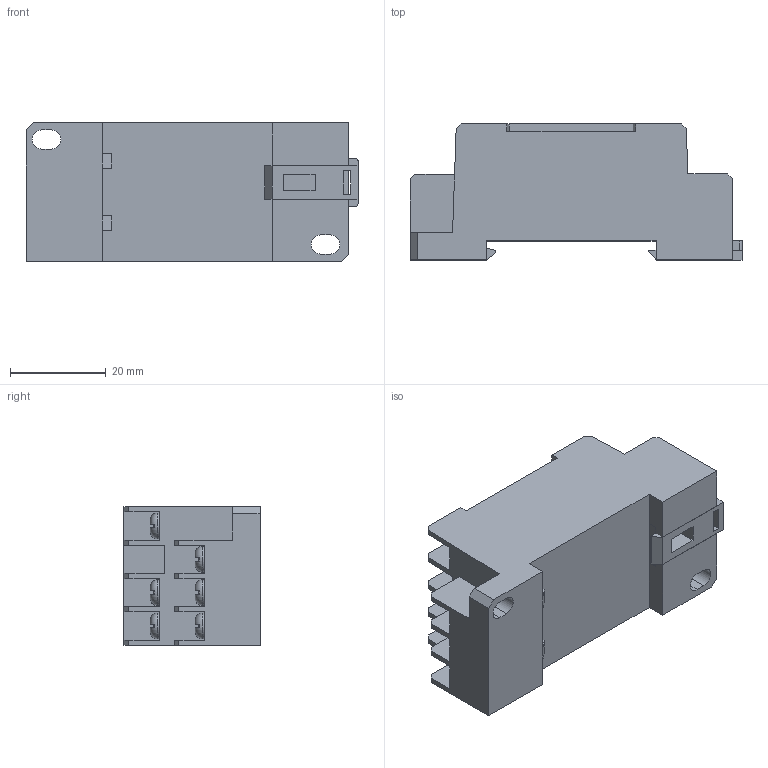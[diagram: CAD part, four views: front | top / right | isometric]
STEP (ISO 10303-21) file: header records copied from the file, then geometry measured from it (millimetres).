
FILE_DESCRIPTION (( 'STEP AP203' ), '1' );
FILE_NAME ('Ðîçåòêà äëÿ RI-53 ENGARD.STEP', '2021-12-09T11:08:28', ( '' ), ( '' ), 'SwSTEP 2.0', 'SolidWorks 2017', '' );
FILE_SCHEMA (( 'CONFIG_CONTROL_DESIGN' ));
Length unit declared in the file: millimetre
Products named in the file (1): Ðîçåòêà äëÿ RI-53 ENGARD
Bounding box: 69.5 x 28.5 x 29 mm (x, y, z)
Volume: 38339.3 mm3; surface area: 14650.3 mm2
Topology: 24 solids, 24 shells, 563 faces, 1481 edges, 978 vertices
Faces by surface type: plane 489, cylinder 52, torus 22
Entity records: 17674 total; most frequent: CARTESIAN_POINT 3793, ORIENTED_EDGE 2962, DIRECTION 2625, EDGE_CURVE 1481, LINE 1157, VECTOR 1157, VERTEX_POINT 978, AXIS2_PLACEMENT_3D 734
